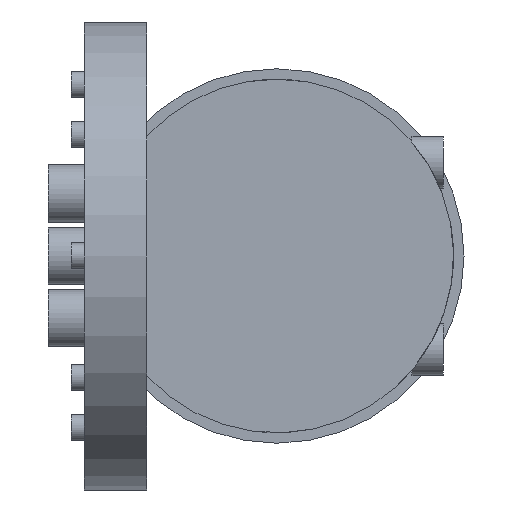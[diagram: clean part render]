
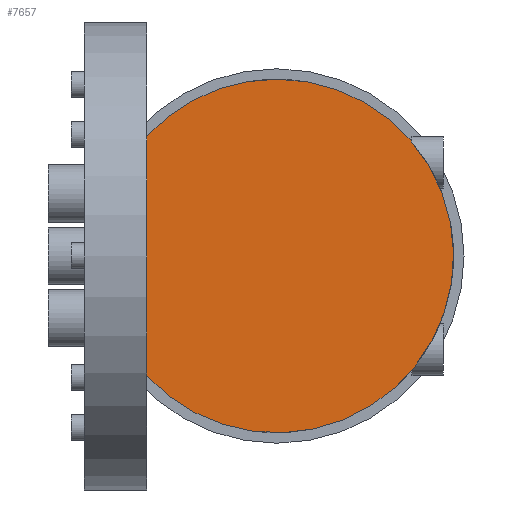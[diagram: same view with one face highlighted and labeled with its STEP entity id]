
A CAD part, left-side view. The second image highlights one B-rep face of the part: STEP entity #7657.
In plain terms, the highlighted planar face has unit normal (-1, 0, 0).
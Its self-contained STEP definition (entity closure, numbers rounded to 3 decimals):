
#7301 = EDGE_CURVE('',#7302,#7304,#7306,.T.);
#7302 = VERTEX_POINT('',#7303);
#7303 = CARTESIAN_POINT('',(-10.,25.,723.043));
#7304 = VERTEX_POINT('',#7305);
#7305 = CARTESIAN_POINT('',(-10.,0.,734.));
#7306 = SURFACE_CURVE('',#7307,(#7312,#7324),.PCURVE_S1.);
#7307 = CIRCLE('',#7308,34.);
#7308 = AXIS2_PLACEMENT_3D('',#7309,#7310,#7311);
#7309 = CARTESIAN_POINT('',(-10.,0.,700.));
#7310 = DIRECTION('',(1.,0.,0.));
#7311 = DIRECTION('',(-0.,0.,1.));
#7312 = PCURVE('',#7313,#7318);
#7313 = CYLINDRICAL_SURFACE('',#7314,34.);
#7314 = AXIS2_PLACEMENT_3D('',#7315,#7316,#7317);
#7315 = CARTESIAN_POINT('',(-10.,0.,700.));
#7316 = DIRECTION('',(1.,0.,0.));
#7317 = DIRECTION('',(-0.,0.,1.));
#7318 = DEFINITIONAL_REPRESENTATION('',(#7319),#7323);
#7319 = LINE('',#7320,#7321);
#7320 = CARTESIAN_POINT('',(0.,0.));
#7321 = VECTOR('',#7322,1.);
#7322 = DIRECTION('',(1.,0.));
#7323 = ( GEOMETRIC_REPRESENTATION_CONTEXT(2) 
PARAMETRIC_REPRESENTATION_CONTEXT() REPRESENTATION_CONTEXT('2D SPACE',''
  ) );
#7324 = PCURVE('',#7325,#7330);
#7325 = PLANE('',#7326);
#7326 = AXIS2_PLACEMENT_3D('',#7327,#7328,#7329);
#7327 = CARTESIAN_POINT('',(-10.,0.,700.));
#7328 = DIRECTION('',(1.,0.,0.));
#7329 = DIRECTION('',(-0.,0.,1.));
#7330 = DEFINITIONAL_REPRESENTATION('',(#7331),#7335);
#7331 = CIRCLE('',#7332,34.);
#7332 = AXIS2_PLACEMENT_2D('',#7333,#7334);
#7333 = CARTESIAN_POINT('',(0.,0.));
#7334 = DIRECTION('',(1.,0.));
#7335 = ( GEOMETRIC_REPRESENTATION_CONTEXT(2) 
PARAMETRIC_REPRESENTATION_CONTEXT() REPRESENTATION_CONTEXT('2D SPACE',''
  ) );
#7353 = CYLINDRICAL_SURFACE('',#7354,34.);
#7354 = AXIS2_PLACEMENT_3D('',#7355,#7356,#7357);
#7355 = CARTESIAN_POINT('',(-10.,0.,700.));
#7356 = DIRECTION('',(1.,0.,0.));
#7357 = DIRECTION('',(-0.,0.,1.));
#7647 = PLANE('',#7648);
#7648 = AXIS2_PLACEMENT_3D('',#7649,#7650,#7651);
#7649 = CARTESIAN_POINT('',(-11.,25.,665.));
#7650 = DIRECTION('',(-0.,1.,0.));
#7651 = DIRECTION('',(0.,0.,1.));
#7657 = ADVANCED_FACE('',(#7658),#7325,.F.);
#7658 = FACE_BOUND('',#7659,.F.);
#7659 = EDGE_LOOP('',(#7660,#7661,#7685));
#7660 = ORIENTED_EDGE('',*,*,#7301,.T.);
#7661 = ORIENTED_EDGE('',*,*,#7662,.T.);
#7662 = EDGE_CURVE('',#7304,#7663,#7665,.T.);
#7663 = VERTEX_POINT('',#7664);
#7664 = CARTESIAN_POINT('',(-10.,25.,676.957));
#7665 = SURFACE_CURVE('',#7666,(#7671,#7678),.PCURVE_S1.);
#7666 = CIRCLE('',#7667,34.);
#7667 = AXIS2_PLACEMENT_3D('',#7668,#7669,#7670);
#7668 = CARTESIAN_POINT('',(-10.,0.,700.));
#7669 = DIRECTION('',(1.,0.,0.));
#7670 = DIRECTION('',(-0.,0.,1.));
#7671 = PCURVE('',#7325,#7672);
#7672 = DEFINITIONAL_REPRESENTATION('',(#7673),#7677);
#7673 = CIRCLE('',#7674,34.);
#7674 = AXIS2_PLACEMENT_2D('',#7675,#7676);
#7675 = CARTESIAN_POINT('',(0.,0.));
#7676 = DIRECTION('',(1.,0.));
#7677 = ( GEOMETRIC_REPRESENTATION_CONTEXT(2) 
PARAMETRIC_REPRESENTATION_CONTEXT() REPRESENTATION_CONTEXT('2D SPACE',''
  ) );
#7678 = PCURVE('',#7353,#7679);
#7679 = DEFINITIONAL_REPRESENTATION('',(#7680),#7684);
#7680 = LINE('',#7681,#7682);
#7681 = CARTESIAN_POINT('',(0.,0.));
#7682 = VECTOR('',#7683,1.);
#7683 = DIRECTION('',(1.,0.));
#7684 = ( GEOMETRIC_REPRESENTATION_CONTEXT(2) 
PARAMETRIC_REPRESENTATION_CONTEXT() REPRESENTATION_CONTEXT('2D SPACE',''
  ) );
#7685 = ORIENTED_EDGE('',*,*,#7686,.T.);
#7686 = EDGE_CURVE('',#7663,#7302,#7687,.T.);
#7687 = SURFACE_CURVE('',#7688,(#7692,#7698),.PCURVE_S1.);
#7688 = LINE('',#7689,#7690);
#7689 = CARTESIAN_POINT('',(-10.,25.,682.5));
#7690 = VECTOR('',#7691,1.);
#7691 = DIRECTION('',(0.,-0.,1.));
#7692 = PCURVE('',#7325,#7693);
#7693 = DEFINITIONAL_REPRESENTATION('',(#7694),#7697);
#7694 = B_SPLINE_CURVE_WITH_KNOTS('',1,(#7695,#7696),.UNSPECIFIED.,.F.,
  .F.,(2,2),(-16.5,51.5),.PIECEWISE_BEZIER_KNOTS.);
#7695 = CARTESIAN_POINT('',(-34.,-25.));
#7696 = CARTESIAN_POINT('',(34.,-25.));
#7697 = ( GEOMETRIC_REPRESENTATION_CONTEXT(2) 
PARAMETRIC_REPRESENTATION_CONTEXT() REPRESENTATION_CONTEXT('2D SPACE',''
  ) );
#7698 = PCURVE('',#7647,#7699);
#7699 = DEFINITIONAL_REPRESENTATION('',(#7700),#7703);
#7700 = B_SPLINE_CURVE_WITH_KNOTS('',1,(#7701,#7702),.UNSPECIFIED.,.F.,
  .F.,(2,2),(-16.5,51.5),.PIECEWISE_BEZIER_KNOTS.);
#7701 = CARTESIAN_POINT('',(1.,1.));
#7702 = CARTESIAN_POINT('',(69.,1.));
#7703 = ( GEOMETRIC_REPRESENTATION_CONTEXT(2) 
PARAMETRIC_REPRESENTATION_CONTEXT() REPRESENTATION_CONTEXT('2D SPACE',''
  ) );
